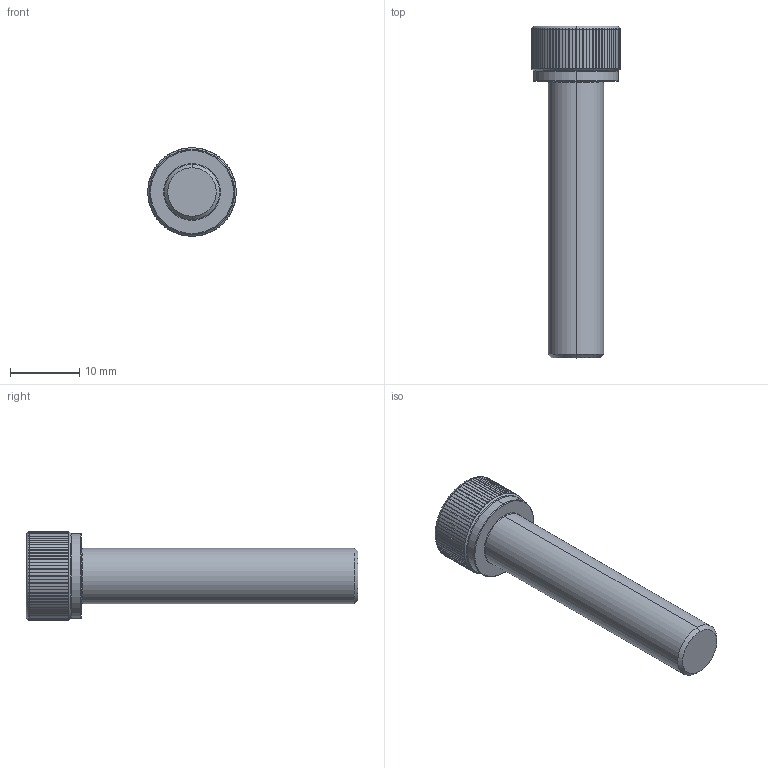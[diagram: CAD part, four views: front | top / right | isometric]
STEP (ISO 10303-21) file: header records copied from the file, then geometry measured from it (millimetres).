
FILE_DESCRIPTION (( 'STEP AP203' ), '1' );
FILE_NAME ('LGDT-304-M8x40.STEP', '2026-08-10T06:47:07', ( '' ), ( '' ), 'SwSTEP 2.0', 'SolidWorks 2020', '' );
FILE_SCHEMA (( 'CONFIG_CONTROL_DESIGN' ));
Length unit declared in the file: millimetre
Products named in the file (1): LGDT-304-M8x40
Bounding box: 12.8 x 48 x 12.8 mm (x, y, z)
Volume: 2859 mm3; surface area: 1658.9 mm2
Topology: 1 solids, 1 shells, 204 faces, 576 edges, 376 vertices
Faces by surface type: cylinder 175, cone 11, plane 10, torus 8
Entity records: 8367 total; most frequent: CARTESIAN_POINT 3208, ORIENTED_EDGE 1152, DIRECTION 988, EDGE_CURVE 576, AXIS2_PLACEMENT_3D 398, VERTEX_POINT 376, EDGE_LOOP 206, FACE_OUTER_BOUND 204
